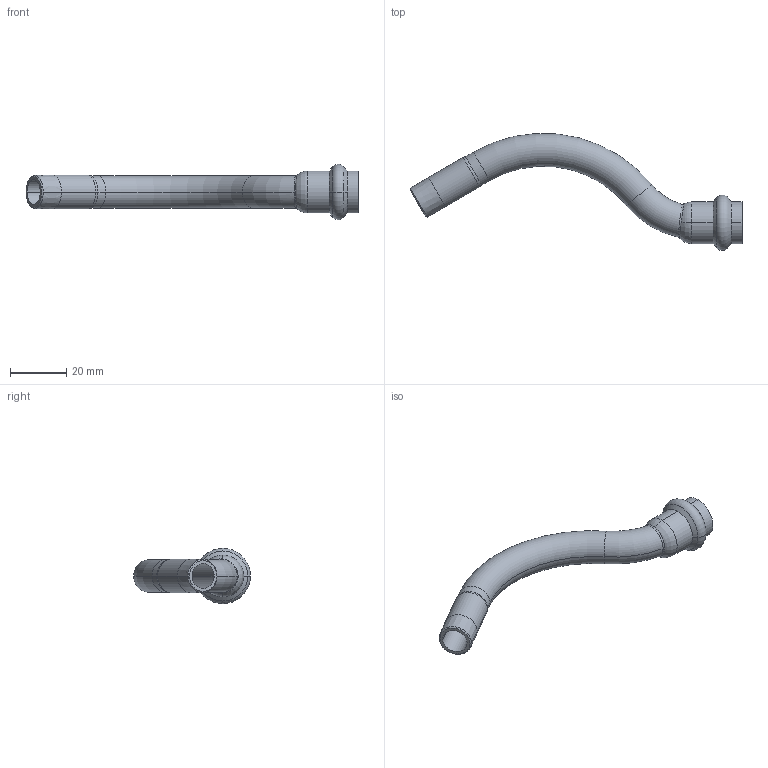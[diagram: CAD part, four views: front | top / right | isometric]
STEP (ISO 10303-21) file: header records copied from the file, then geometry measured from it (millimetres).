
FILE_DESCRIPTION (( 'STEP AP203' ), '1' );
FILE_NAME ('SP5086 Ø12.STEP', '2017-04-24T08:26:01', ( '' ), ( '' ), 'SwSTEP 2.0', 'SolidWorks 2016', '' );
FILE_SCHEMA (( 'CONFIG_CONTROL_DESIGN' ));
Length unit declared in the file: millimetre
Products named in the file (1): SP5086 ﾘ12
Bounding box: 118.15 x 41.63 x 19.7 mm (x, y, z)
Volume: 6583.2 mm3; surface area: 9094.3 mm2
Topology: 1 solids, 1 shells, 54 faces, 118 edges, 66 vertices
Faces by surface type: torus 20, cylinder 16, cone 14, bspline 2, plane 2
Entity records: 2019 total; most frequent: CARTESIAN_POINT 735, DIRECTION 288, ORIENTED_EDGE 236, AXIS2_PLACEMENT_3D 129, EDGE_CURVE 118, CIRCLE 76, VERTEX_POINT 66, EDGE_LOOP 56
